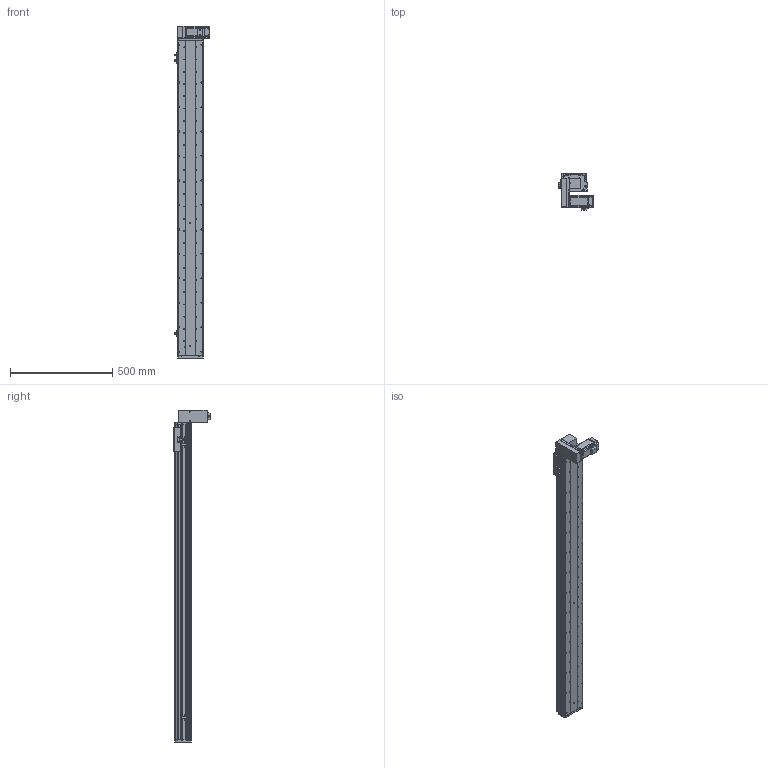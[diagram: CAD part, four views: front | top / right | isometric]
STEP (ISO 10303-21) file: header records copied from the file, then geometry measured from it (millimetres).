
FILE_DESCRIPTION (( 'STEP AP214' ), '1' );
FILE_NAME ('KSD125B-S1350-MRD-CM.STEP', '2017-10-21T06:34:48', ( '微软用户' ), ( '微软中国' ), 'SwSTEP 2.0', 'SolidWorks 2014', '' );
FILE_SCHEMA (( 'AUTOMOTIVE_DESIGN' ));
Length unit declared in the file: millimetre
Products named in the file (17): 覜茼え68遵圉猾敕; U倰嫖萇假蚾璃; U倰嫖萇EEㄜSX672; KSD125模组同步带-防撞垫1; 100宽马达安装板同步带右; 前端板-125宽模组同步带; 125模组同步带-尾端板1; KSD125模组同步带-滑动座1; KSD125B-S1350-MRD-CM; 悵誘欶奻狟殏; HTPA30S3M150_A_H6_a佪裝蚚; HTPA30S3M150_A_H6_a萇儂蚚; 100宽马达安装板连板上下折丝杆同步带; KSD125模组1350行程同步带-防尘盖; 125模组1350行程同步带-底板; MHMD042G1CA_2_03; KSD125模组同步带-防撞垫2
Assembly tree (20 placements, depth 2):
  KSD125B-S1350-MRD-CM
    KSD125模组同步带-滑动座1
    125模组同步带-尾端板1
    前端板-125宽模组同步带
    100宽马达安装板同步带右
    KSD125模组同步带-防撞垫1
    U倰嫖萇EEㄜSX672  x3
    U倰嫖萇假蚾璃  x3
    覜茼え68遵圉猾敕
    KSD125模组同步带-防撞垫2
    MHMD042G1CA_2_03
    125模组1350行程同步带-底板
    KSD125模组1350行程同步带-防尘盖
    100宽马达安装板连板上下折丝杆同步带
    HTPA30S3M150_A_H6_a萇儂蚚
    HTPA30S3M150_A_H6_a佪裝蚚
    悵誘欶奻狟殏
Bounding box: 168.7 x 179.5 x 1627 mm (x, y, z)
Volume: 4860166.7 mm3; surface area: 1614966.4 mm2
Topology: 19 solids, 22 shells, 2365 faces, 6859 edges, 4534 vertices
Faces by surface type: cylinder 1504, plane 734, cone 105, bspline 22
Entity records: 84593 total; most frequent: CARTESIAN_POINT 16653, DIRECTION 13140, ORIENTED_EDGE 12238, EDGE_CURVE 6197, AXIS2_PLACEMENT_3D 5097, VERTEX_POINT 4126, CIRCLE 2950, LINE 2946
